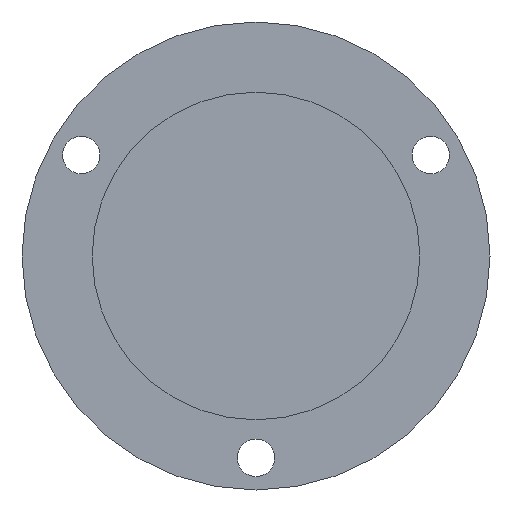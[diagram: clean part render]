
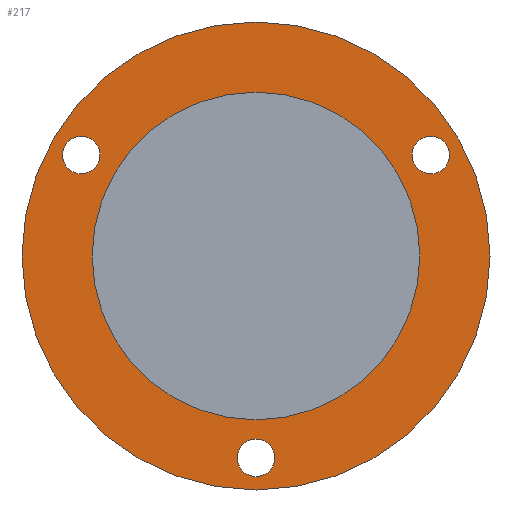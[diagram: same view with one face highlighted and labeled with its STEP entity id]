
A CAD part, front view. The second image highlights one B-rep face of the part: STEP entity #217.
In plain terms, the highlighted planar face has unit normal (0, -1, 0).
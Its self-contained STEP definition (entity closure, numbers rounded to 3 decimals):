
#10 = CARTESIAN_POINT ( 'NONE',  ( 0., 10., -17.25 ) ) ;
#11 = DIRECTION ( 'NONE',  ( 0., 0., 1. ) ) ;
#15 = VERTEX_POINT ( 'NONE', #659 ) ;
#41 = AXIS2_PLACEMENT_3D ( 'NONE', #68, #215, #429 ) ;
#42 = DIRECTION ( 'NONE',  ( 0., -1., 0. ) ) ;
#51 = AXIS2_PLACEMENT_3D ( 'NONE', #187, #464, #298 ) ;
#54 = CIRCLE ( 'NONE', #778, 1.6 ) ;
#68 = CARTESIAN_POINT ( 'NONE',  ( 0., 10., -17.25 ) ) ;
#75 = FACE_BOUND ( 'NONE', #587, .T. ) ;
#76 = CARTESIAN_POINT ( 'NONE',  ( 0., 10., -14. ) ) ;
#78 = CARTESIAN_POINT ( 'NONE',  ( 14.939, 10., 8.625 ) ) ;
#92 = DIRECTION ( 'NONE',  ( 0., -1., 0. ) ) ;
#128 = VERTEX_POINT ( 'NONE', #480 ) ;
#134 = DIRECTION ( 'NONE',  ( 0., 1., 0. ) ) ;
#145 = VERTEX_POINT ( 'NONE', #875 ) ;
#147 = CARTESIAN_POINT ( 'NONE',  ( -14., 10., 0. ) ) ;
#155 = DIRECTION ( 'NONE',  ( 0., 0., -1. ) ) ;
#160 = DIRECTION ( 'NONE',  ( 0., 0., 1. ) ) ;
#168 = AXIS2_PLACEMENT_3D ( 'NONE', #226, #500, #155 ) ;
#174 = VERTEX_POINT ( 'NONE', #343 ) ;
#183 = EDGE_CURVE ( 'NONE', #199, #250, #734, .T. ) ;
#185 = EDGE_CURVE ( 'NONE', #145, #854, #367, .T. ) ;
#187 = CARTESIAN_POINT ( 'NONE',  ( 0., 10., 0. ) ) ;
#191 = AXIS2_PLACEMENT_3D ( 'NONE', #850, #775, #451 ) ;
#199 = VERTEX_POINT ( 'NONE', #626 ) ;
#203 = ORIENTED_EDGE ( 'NONE', *, *, #317, .T. ) ;
#209 = CARTESIAN_POINT ( 'NONE',  ( 0., 10., -18.85 ) ) ;
#215 = DIRECTION ( 'NONE',  ( 0., 1., 0. ) ) ;
#217 = ADVANCED_FACE ( 'NONE', ( #75, #549, #751, #820, #486 ), #756, .F. ) ;
#226 = CARTESIAN_POINT ( 'NONE',  ( 0., 10., 0. ) ) ;
#250 = VERTEX_POINT ( 'NONE', #416 ) ;
#264 = EDGE_LOOP ( 'NONE', ( #839, #670 ) ) ;
#272 = CIRCLE ( 'NONE', #668, 1.6 ) ;
#275 = VERTEX_POINT ( 'NONE', #209 ) ;
#282 = DIRECTION ( 'NONE',  ( 0., 0., 1. ) ) ;
#298 = DIRECTION ( 'NONE',  ( 0., 0., -1. ) ) ;
#301 = ORIENTED_EDGE ( 'NONE', *, *, #185, .F. ) ;
#303 = CARTESIAN_POINT ( 'NONE',  ( 0., 10., 0. ) ) ;
#310 = EDGE_LOOP ( 'NONE', ( #414, #301 ) ) ;
#313 = DIRECTION ( 'NONE',  ( 0., 0., -1. ) ) ;
#317 = EDGE_CURVE ( 'NONE', #412, #174, #790, .T. ) ;
#333 = AXIS2_PLACEMENT_3D ( 'NONE', #656, #42, #313 ) ;
#343 = CARTESIAN_POINT ( 'NONE',  ( -14.939, 10., 10.225 ) ) ;
#362 = DIRECTION ( 'NONE',  ( 0., 1., 0. ) ) ;
#367 = CIRCLE ( 'NONE', #168, 14. ) ;
#384 = VERTEX_POINT ( 'NONE', #782 ) ;
#389 = CIRCLE ( 'NONE', #421, 1.6 ) ;
#406 = AXIS2_PLACEMENT_3D ( 'NONE', #78, #625, #11 ) ;
#412 = VERTEX_POINT ( 'NONE', #524 ) ;
#413 = DIRECTION ( 'NONE',  ( 0., 0., 1. ) ) ;
#414 = ORIENTED_EDGE ( 'NONE', *, *, #443, .F. ) ;
#416 = CARTESIAN_POINT ( 'NONE',  ( 0., 10., 20. ) ) ;
#417 = DIRECTION ( 'NONE',  ( 0., 1., 0. ) ) ;
#421 = AXIS2_PLACEMENT_3D ( 'NONE', #633, #134, #422 ) ;
#422 = DIRECTION ( 'NONE',  ( 0., 0., 1. ) ) ;
#429 = DIRECTION ( 'NONE',  ( 0., 0., 1. ) ) ;
#443 = EDGE_CURVE ( 'NONE', #854, #145, #597, .T. ) ;
#451 = DIRECTION ( 'NONE',  ( 0., 0., 1. ) ) ;
#464 = DIRECTION ( 'NONE',  ( 0., -1., 0. ) ) ;
#476 = ORIENTED_EDGE ( 'NONE', *, *, #869, .T. ) ;
#480 = CARTESIAN_POINT ( 'NONE',  ( 0., 10., -15.65 ) ) ;
#486 = FACE_OUTER_BOUND ( 'NONE', #264, .T. ) ;
#500 = DIRECTION ( 'NONE',  ( 0., -1., 0. ) ) ;
#509 = EDGE_CURVE ( 'NONE', #275, #128, #867, .T. ) ;
#510 = ORIENTED_EDGE ( 'NONE', *, *, #599, .T. ) ;
#524 = CARTESIAN_POINT ( 'NONE',  ( -14.939, 10., 7.025 ) ) ;
#549 = FACE_BOUND ( 'NONE', #565, .T. ) ;
#565 = EDGE_LOOP ( 'NONE', ( #510, #685 ) ) ;
#580 = ORIENTED_EDGE ( 'NONE', *, *, #509, .T. ) ;
#587 = EDGE_LOOP ( 'NONE', ( #476, #203 ) ) ;
#597 = CIRCLE ( 'NONE', #333, 14. ) ;
#599 = EDGE_CURVE ( 'NONE', #384, #15, #791, .T. ) ;
#623 = AXIS2_PLACEMENT_3D ( 'NONE', #303, #92, #779 ) ;
#625 = DIRECTION ( 'NONE',  ( 0., 1., 0. ) ) ;
#626 = CARTESIAN_POINT ( 'NONE',  ( 0., 10., -20. ) ) ;
#633 = CARTESIAN_POINT ( 'NONE',  ( -14.939, 10., 8.625 ) ) ;
#636 = EDGE_CURVE ( 'NONE', #250, #199, #667, .T. ) ;
#656 = CARTESIAN_POINT ( 'NONE',  ( 0., 10., 0. ) ) ;
#659 = CARTESIAN_POINT ( 'NONE',  ( 14.939, 10., 7.025 ) ) ;
#667 = CIRCLE ( 'NONE', #623, 20. ) ;
#668 = AXIS2_PLACEMENT_3D ( 'NONE', #10, #763, #413 ) ;
#670 = ORIENTED_EDGE ( 'NONE', *, *, #636, .T. ) ;
#684 = CARTESIAN_POINT ( 'NONE',  ( 14.939, 10., 8.625 ) ) ;
#685 = ORIENTED_EDGE ( 'NONE', *, *, #808, .T. ) ;
#724 = ORIENTED_EDGE ( 'NONE', *, *, #757, .T. ) ;
#734 = CIRCLE ( 'NONE', #51, 20. ) ;
#751 = FACE_BOUND ( 'NONE', #795, .T. ) ;
#756 = PLANE ( 'NONE',  #845 ) ;
#757 = EDGE_CURVE ( 'NONE', #128, #275, #272, .T. ) ;
#763 = DIRECTION ( 'NONE',  ( 0., 1., 0. ) ) ;
#775 = DIRECTION ( 'NONE',  ( 0., 1., 0. ) ) ;
#778 = AXIS2_PLACEMENT_3D ( 'NONE', #684, #417, #282 ) ;
#779 = DIRECTION ( 'NONE',  ( 0., 0., -1. ) ) ;
#782 = CARTESIAN_POINT ( 'NONE',  ( 14.939, 10., 10.225 ) ) ;
#790 = CIRCLE ( 'NONE', #191, 1.6 ) ;
#791 = CIRCLE ( 'NONE', #406, 1.6 ) ;
#795 = EDGE_LOOP ( 'NONE', ( #724, #580 ) ) ;
#808 = EDGE_CURVE ( 'NONE', #15, #384, #54, .T. ) ;
#820 = FACE_BOUND ( 'NONE', #310, .T. ) ;
#839 = ORIENTED_EDGE ( 'NONE', *, *, #183, .T. ) ;
#845 = AXIS2_PLACEMENT_3D ( 'NONE', #147, #362, #160 ) ;
#850 = CARTESIAN_POINT ( 'NONE',  ( -14.939, 10., 8.625 ) ) ;
#854 = VERTEX_POINT ( 'NONE', #76 ) ;
#867 = CIRCLE ( 'NONE', #41, 1.6 ) ;
#869 = EDGE_CURVE ( 'NONE', #174, #412, #389, .T. ) ;
#875 = CARTESIAN_POINT ( 'NONE',  ( 0., 10., 14. ) ) ;
